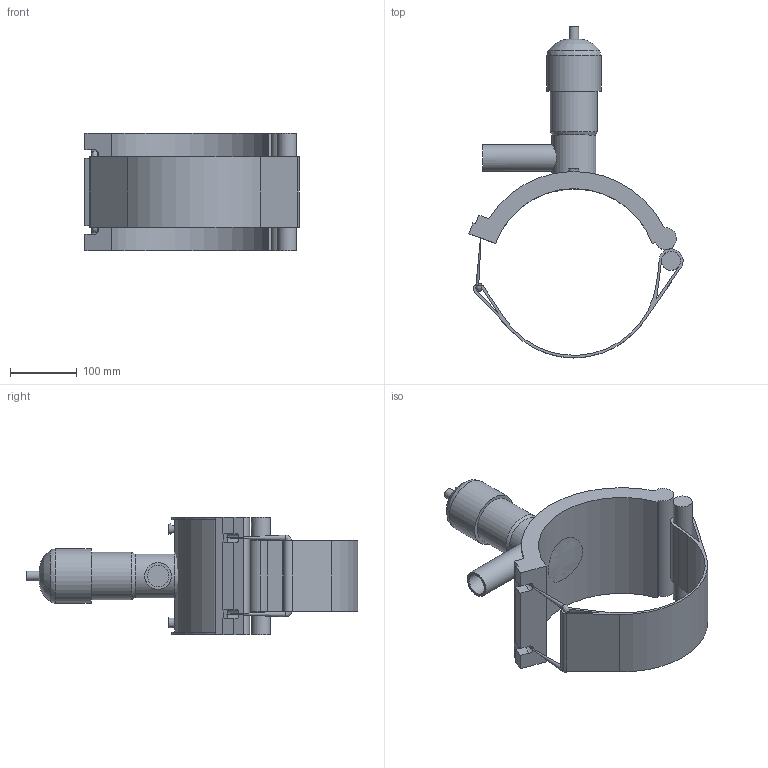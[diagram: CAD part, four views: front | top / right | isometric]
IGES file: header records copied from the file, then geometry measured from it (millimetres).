
Global section: file name: 495404250040.ipt; native system: Autodesk Inventor 2015; preprocessor: unknown; author: KIM; date: 20171106.094323; units: millimetre
Bounding box: 321.09 x 497.75 x 176 mm (x, y, z)
Volume: 2769675.1 mm3; surface area: 398196.5 mm2
Topology: 2 solids, 4 shells, 81 faces, 196 edges, 130 vertices
Faces by surface type: plane 45, cylinder 20, revolution 13, cone 3
Full cylindrical faces by diameter (mm): 4 x2, 8.5 x2, 14.64 x1, 28.462 x1, 40 x1, 65.88 x1, 70.76 x1, 73.2 x1, 81.333 x1
